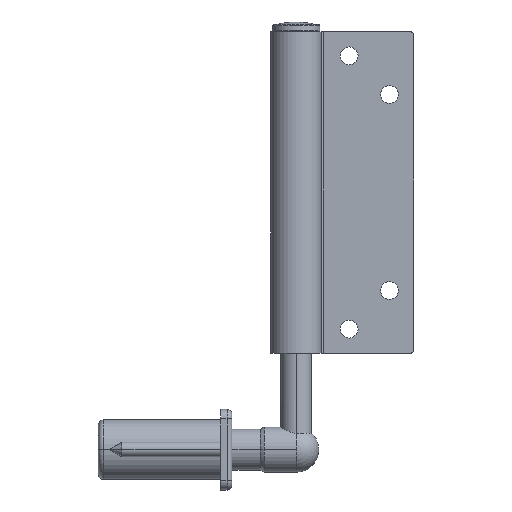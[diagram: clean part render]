
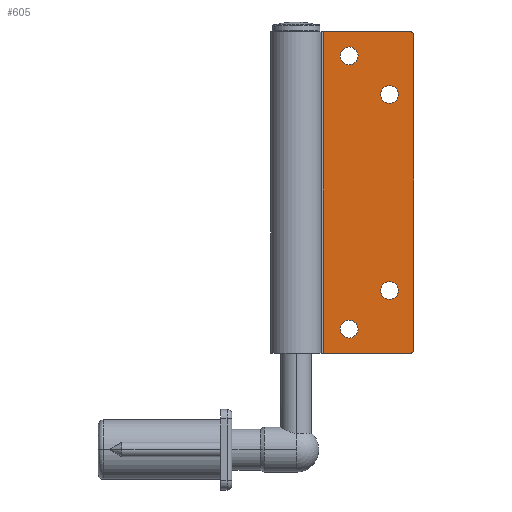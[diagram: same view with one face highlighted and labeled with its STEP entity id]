
A CAD part, top view. The second image highlights one B-rep face of the part: STEP entity #605.
In plain terms, the highlighted planar face has unit normal (0, 0, 1) as drawn and (1, 0, 0) by its records, which use the part's own axes.
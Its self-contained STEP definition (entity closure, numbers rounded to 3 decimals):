
#17 = ORIENTED_EDGE ( 'NONE', *, *, #2674, .T. ) ;
#31 = CARTESIAN_POINT ( 'NONE',  ( 37.336, 52.609, 16.723 ) ) ;
#36 = DIRECTION ( 'NONE',  ( 0., 1., 0. ) ) ;
#46 = DIRECTION ( 'NONE',  ( 0., 0., -1. ) ) ;
#102 = CARTESIAN_POINT ( 'NONE',  ( 37.336, 60.109, 35.723 ) ) ;
#124 = VERTEX_POINT ( 'NONE', #1616 ) ;
#168 = VERTEX_POINT ( 'NONE', #659 ) ;
#184 = FACE_BOUND ( 'NONE', #1598, .T. ) ;
#229 = ORIENTED_EDGE ( 'NONE', *, *, #1099, .T. ) ;
#233 = VERTEX_POINT ( 'NONE', #2232 ) ;
#260 = EDGE_LOOP ( 'NONE', ( #2394, #1106 ) ) ;
#303 = CARTESIAN_POINT ( 'NONE',  ( 37.336, 60.109, 8.573 ) ) ;
#306 = AXIS2_PLACEMENT_3D ( 'NONE', #1656, #835, #2739 ) ;
#309 = VERTEX_POINT ( 'NONE', #2248 ) ;
#341 = EDGE_CURVE ( 'NONE', #168, #747, #1681, .T. ) ;
#343 = VECTOR ( 'NONE', #36, 1000. ) ;
#360 = AXIS2_PLACEMENT_3D ( 'NONE', #3381, #2088, #965 ) ;
#470 = DIRECTION ( 'NONE',  ( 0., 0., 1. ) ) ;
#474 = FACE_BOUND ( 'NONE', #479, .T. ) ;
#479 = EDGE_LOOP ( 'NONE', ( #229, #3010 ) ) ;
#487 = VERTEX_POINT ( 'NONE', #102 ) ;
#500 = EDGE_CURVE ( 'NONE', #2199, #2067, #2691, .T. ) ;
#507 = EDGE_CURVE ( 'NONE', #1274, #2397, #3392, .T. ) ;
#511 = CARTESIAN_POINT ( 'NONE',  ( 37.336, -32.391, 16.723 ) ) ;
#559 = CARTESIAN_POINT ( 'NONE',  ( 37.336, -39.891, 36.723 ) ) ;
#575 = VERTEX_POINT ( 'NONE', #2152 ) ;
#605 = ADVANCED_FACE ( 'NONE', ( #1885, #184, #746, #474, #1299 ), #1025, .F. ) ;
#625 = EDGE_CURVE ( 'NONE', #487, #747, #2208, .T. ) ;
#645 = CARTESIAN_POINT ( 'NONE',  ( 37.336, -20.391, 26.473 ) ) ;
#659 = CARTESIAN_POINT ( 'NONE',  ( 37.336, -39.891, 8.573 ) ) ;
#680 = ORIENTED_EDGE ( 'NONE', *, *, #1953, .T. ) ;
#683 = DIRECTION ( 'NONE',  ( -1., 0., 0. ) ) ;
#690 = CARTESIAN_POINT ( 'NONE',  ( 37.336, 59.109, 36.723 ) ) ;
#700 = AXIS2_PLACEMENT_3D ( 'NONE', #31, #1431, #1411 ) ;
#715 = EDGE_CURVE ( 'NONE', #309, #575, #1958, .T. ) ;
#720 = CARTESIAN_POINT ( 'NONE',  ( 37.336, -32.391, 16.723 ) ) ;
#746 = FACE_BOUND ( 'NONE', #3313, .T. ) ;
#747 = VERTEX_POINT ( 'NONE', #3387 ) ;
#835 = DIRECTION ( 'NONE',  ( 1., 0., 0. ) ) ;
#873 = EDGE_CURVE ( 'NONE', #575, #309, #1840, .T. ) ;
#965 = DIRECTION ( 'NONE',  ( 0., 0., 1. ) ) ;
#1014 = CARTESIAN_POINT ( 'NONE',  ( 37.336, -20.391, 29.223 ) ) ;
#1019 = ORIENTED_EDGE ( 'NONE', *, *, #507, .T. ) ;
#1025 = PLANE ( 'NONE',  #1167 ) ;
#1064 = DIRECTION ( 'NONE',  ( 0., 0., 1. ) ) ;
#1099 = EDGE_CURVE ( 'NONE', #2058, #233, #1518, .T. ) ;
#1106 = ORIENTED_EDGE ( 'NONE', *, *, #1740, .T. ) ;
#1164 = CARTESIAN_POINT ( 'NONE',  ( 37.336, -38.891, 36.723 ) ) ;
#1167 = AXIS2_PLACEMENT_3D ( 'NONE', #2422, #1847, #2970 ) ;
#1274 = VERTEX_POINT ( 'NONE', #2228 ) ;
#1277 = CARTESIAN_POINT ( 'NONE',  ( 37.336, 52.609, 16.723 ) ) ;
#1299 = FACE_OUTER_BOUND ( 'NONE', #3296, .T. ) ;
#1338 = DIRECTION ( 'NONE',  ( 0., 0., 1. ) ) ;
#1411 = DIRECTION ( 'NONE',  ( 0., 0., 1. ) ) ;
#1420 = LINE ( 'NONE', #559, #2023 ) ;
#1431 = DIRECTION ( 'NONE',  ( -1., 0., 0. ) ) ;
#1433 = AXIS2_PLACEMENT_3D ( 'NONE', #2726, #2801, #2262 ) ;
#1518 = CIRCLE ( 'NONE', #3163, 2.75 ) ;
#1598 = EDGE_LOOP ( 'NONE', ( #3028, #2961 ) ) ;
#1616 = CARTESIAN_POINT ( 'NONE',  ( 37.336, -39.891, 35.723 ) ) ;
#1624 = AXIS2_PLACEMENT_3D ( 'NONE', #720, #2402, #2642 ) ;
#1630 = EDGE_CURVE ( 'NONE', #124, #168, #1420, .T. ) ;
#1656 = CARTESIAN_POINT ( 'NONE',  ( 37.336, 59.109, 35.723 ) ) ;
#1681 = LINE ( 'NONE', #303, #343 ) ;
#1703 = CIRCLE ( 'NONE', #2212, 1. ) ;
#1740 = EDGE_CURVE ( 'NONE', #2543, #3018, #2707, .T. ) ;
#1778 = CARTESIAN_POINT ( 'NONE',  ( 37.336, 40.609, 29.223 ) ) ;
#1840 = CIRCLE ( 'NONE', #2306, 2.75 ) ;
#1847 = DIRECTION ( 'NONE',  ( -1., 0., 0. ) ) ;
#1857 = CIRCLE ( 'NONE', #306, 1. ) ;
#1885 = FACE_BOUND ( 'NONE', #260, .T. ) ;
#1927 = EDGE_CURVE ( 'NONE', #3018, #2543, #2943, .T. ) ;
#1953 = EDGE_CURVE ( 'NONE', #2067, #124, #1703, .T. ) ;
#1958 = CIRCLE ( 'NONE', #700, 2.75 ) ;
#2005 = CARTESIAN_POINT ( 'NONE',  ( 37.336, -20.391, 31.973 ) ) ;
#2021 = DIRECTION ( 'NONE',  ( 0., 0., 1. ) ) ;
#2023 = VECTOR ( 'NONE', #3070, 1000. ) ;
#2058 = VERTEX_POINT ( 'NONE', #2566 ) ;
#2067 = VERTEX_POINT ( 'NONE', #1164 ) ;
#2088 = DIRECTION ( 'NONE',  ( -1., 0., 0. ) ) ;
#2113 = ORIENTED_EDGE ( 'NONE', *, *, #341, .T. ) ;
#2118 = DIRECTION ( 'NONE',  ( 1., 0., 0. ) ) ;
#2152 = CARTESIAN_POINT ( 'NONE',  ( 37.336, 52.609, 19.473 ) ) ;
#2154 = CIRCLE ( 'NONE', #2334, 2.75 ) ;
#2171 = DIRECTION ( 'NONE',  ( -1., 0., 0. ) ) ;
#2199 = VERTEX_POINT ( 'NONE', #690 ) ;
#2208 = LINE ( 'NONE', #2745, #3505 ) ;
#2210 = AXIS2_PLACEMENT_3D ( 'NONE', #1014, #2171, #1064 ) ;
#2212 = AXIS2_PLACEMENT_3D ( 'NONE', #3205, #2118, #1338 ) ;
#2228 = CARTESIAN_POINT ( 'NONE',  ( 37.336, -32.391, 19.473 ) ) ;
#2232 = CARTESIAN_POINT ( 'NONE',  ( 37.336, 40.609, 26.473 ) ) ;
#2248 = CARTESIAN_POINT ( 'NONE',  ( 37.336, 52.609, 13.973 ) ) ;
#2262 = DIRECTION ( 'NONE',  ( 0., 0., 1. ) ) ;
#2306 = AXIS2_PLACEMENT_3D ( 'NONE', #1277, #2365, #470 ) ;
#2334 = AXIS2_PLACEMENT_3D ( 'NONE', #511, #683, #2614 ) ;
#2365 = DIRECTION ( 'NONE',  ( -1., 0., 0. ) ) ;
#2394 = ORIENTED_EDGE ( 'NONE', *, *, #1927, .T. ) ;
#2397 = VERTEX_POINT ( 'NONE', #3015 ) ;
#2402 = DIRECTION ( 'NONE',  ( -1., 0., 0. ) ) ;
#2422 = CARTESIAN_POINT ( 'NONE',  ( 37.336, 60.109, 36.723 ) ) ;
#2467 = ORIENTED_EDGE ( 'NONE', *, *, #1630, .T. ) ;
#2543 = VERTEX_POINT ( 'NONE', #645 ) ;
#2566 = CARTESIAN_POINT ( 'NONE',  ( 37.336, 40.609, 31.973 ) ) ;
#2614 = DIRECTION ( 'NONE',  ( 0., 0., 1. ) ) ;
#2642 = DIRECTION ( 'NONE',  ( 0., 0., 1. ) ) ;
#2671 = CIRCLE ( 'NONE', #1433, 2.75 ) ;
#2674 = EDGE_CURVE ( 'NONE', #2397, #1274, #2154, .T. ) ;
#2691 = LINE ( 'NONE', #3479, #2767 ) ;
#2707 = CIRCLE ( 'NONE', #360, 2.75 ) ;
#2726 = CARTESIAN_POINT ( 'NONE',  ( 37.336, 40.609, 29.223 ) ) ;
#2739 = DIRECTION ( 'NONE',  ( 0., 0., 1. ) ) ;
#2745 = CARTESIAN_POINT ( 'NONE',  ( 37.336, 60.109, 36.723 ) ) ;
#2767 = VECTOR ( 'NONE', #3222, 1000. ) ;
#2801 = DIRECTION ( 'NONE',  ( -1., 0., 0. ) ) ;
#2816 = EDGE_CURVE ( 'NONE', #233, #2058, #2671, .T. ) ;
#2943 = CIRCLE ( 'NONE', #2210, 2.75 ) ;
#2961 = ORIENTED_EDGE ( 'NONE', *, *, #715, .T. ) ;
#2970 = DIRECTION ( 'NONE',  ( 0., 0., 1. ) ) ;
#3010 = ORIENTED_EDGE ( 'NONE', *, *, #2816, .T. ) ;
#3015 = CARTESIAN_POINT ( 'NONE',  ( 37.336, -32.391, 13.973 ) ) ;
#3018 = VERTEX_POINT ( 'NONE', #2005 ) ;
#3028 = ORIENTED_EDGE ( 'NONE', *, *, #873, .T. ) ;
#3070 = DIRECTION ( 'NONE',  ( 0., 0., -1. ) ) ;
#3086 = ORIENTED_EDGE ( 'NONE', *, *, #500, .T. ) ;
#3091 = DIRECTION ( 'NONE',  ( -1., 0., 0. ) ) ;
#3122 = ORIENTED_EDGE ( 'NONE', *, *, #3315, .T. ) ;
#3163 = AXIS2_PLACEMENT_3D ( 'NONE', #1778, #3091, #2021 ) ;
#3205 = CARTESIAN_POINT ( 'NONE',  ( 37.336, -38.891, 35.723 ) ) ;
#3222 = DIRECTION ( 'NONE',  ( 0., -1., 0. ) ) ;
#3296 = EDGE_LOOP ( 'NONE', ( #3086, #680, #2467, #2113, #3470, #3122 ) ) ;
#3313 = EDGE_LOOP ( 'NONE', ( #1019, #17 ) ) ;
#3315 = EDGE_CURVE ( 'NONE', #487, #2199, #1857, .T. ) ;
#3381 = CARTESIAN_POINT ( 'NONE',  ( 37.336, -20.391, 29.223 ) ) ;
#3387 = CARTESIAN_POINT ( 'NONE',  ( 37.336, 60.109, 8.573 ) ) ;
#3392 = CIRCLE ( 'NONE', #1624, 2.75 ) ;
#3470 = ORIENTED_EDGE ( 'NONE', *, *, #625, .F. ) ;
#3479 = CARTESIAN_POINT ( 'NONE',  ( 37.336, 60.109, 36.723 ) ) ;
#3505 = VECTOR ( 'NONE', #46, 1000. ) ;
